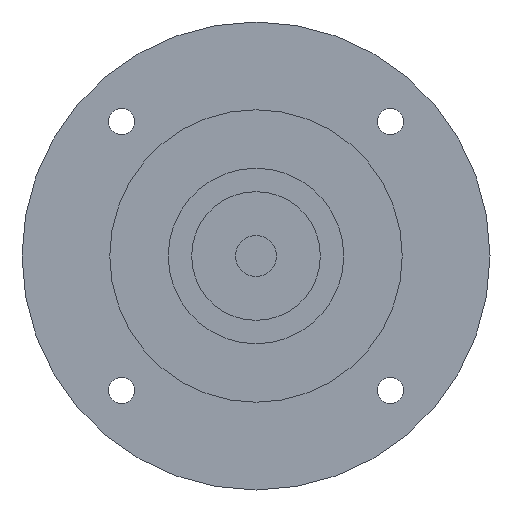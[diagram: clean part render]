
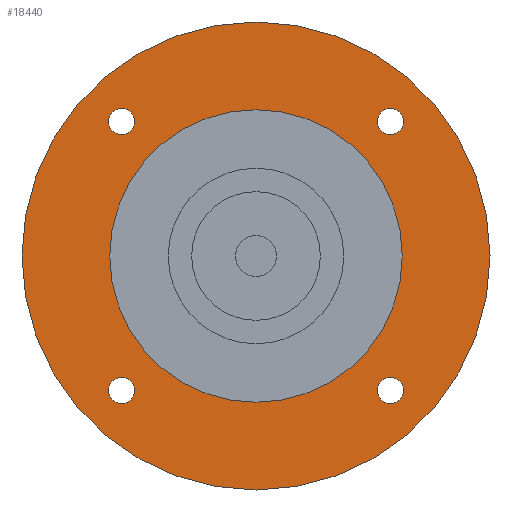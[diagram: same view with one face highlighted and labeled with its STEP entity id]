
A CAD part, left-side view. The second image highlights one B-rep face of the part: STEP entity #18440.
In plain terms, the highlighted planar face has unit normal (-1, 0, 0) as drawn and (0, 0, -1) by its records, which use the part's own axes.
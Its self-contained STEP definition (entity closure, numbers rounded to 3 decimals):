
#11090=CARTESIAN_POINT('',(-20.731,-22.981,-58.));
#11100=VERTEX_POINT('',#11090);
#11280=CARTESIAN_POINT('',(-25.231,-22.981,-58.));
#11290=VERTEX_POINT('',#11280);
#11320=CARTESIAN_POINT('',(-22.981,-22.981,-58.));
#11330=DIRECTION('',(0.,0.,-1.));
#11340=DIRECTION('',(0.,-1.,0.));
#11350=AXIS2_PLACEMENT_3D('',#11320,#11330,#11340);
#11360=CIRCLE('',#11350,2.25);
#11370=CARTESIAN_POINT('',(-22.981,-25.231,-58.));
#11380=VERTEX_POINT('',#11370);
#11390=EDGE_CURVE('',#11380,#11290,#11360,.T.);
#11410=EDGE_CURVE('',#11100,#11380,#11360,.T.);
#12890=CARTESIAN_POINT('',(40.,0.,-58.));
#12900=VERTEX_POINT('',#12890);
#12950=CARTESIAN_POINT('',(0.,0.,
-58.));
#12960=DIRECTION('',(0.,0.,1.));
#12970=DIRECTION('',(1.,0.,0.));
#12980=AXIS2_PLACEMENT_3D('',#12950,#12960,#12970);
#12990=CIRCLE('',#12980,40.);
#13000=CARTESIAN_POINT('',(-40.,0.,-58.));
#13010=VERTEX_POINT('',#13000);
#13020=EDGE_CURVE('',#13010,#12900,#12990,.T.);
#17420=CARTESIAN_POINT('',(20.731,22.981,-58.));
#17430=VERTEX_POINT('',#17420);
#17510=CARTESIAN_POINT('',(25.231,22.981,-58.));
#17520=VERTEX_POINT('',#17510);
#17550=CARTESIAN_POINT('',(22.981,22.981,-58.));
#17560=DIRECTION('',(0.,0.,-1.));
#17570=DIRECTION('',(0.,1.,0.));
#17580=AXIS2_PLACEMENT_3D('',#17550,#17560,#17570);
#17590=CIRCLE('',#17580,2.25);
#17600=CARTESIAN_POINT('',(22.981,25.231,-58.));
#17610=VERTEX_POINT('',#17600);
#17620=EDGE_CURVE('',#17610,#17520,#17590,.T.);
#17640=EDGE_CURVE('',#17430,#17610,#17590,.T.);
#17690=CARTESIAN_POINT('',(0.,0.,
-58.));
#17700=DIRECTION('',(0.,0.,1.));
#17710=DIRECTION('',(-1.,0.,0.));
#17720=AXIS2_PLACEMENT_3D('',#17690,#17700,#17710);
#17730=PLANE('',#17720);
#17740=CARTESIAN_POINT('',(0.,0.,
-58.));
#17750=DIRECTION('',(0.,0.,-1.));
#17760=DIRECTION('',(0.,-1.,0.));
#17770=AXIS2_PLACEMENT_3D('',#17740,#17750,#17760);
#17780=CIRCLE('',#17770,25.);
#17790=CARTESIAN_POINT('',(0.,-25.,-58.));
#17800=VERTEX_POINT('',#17790);
#17810=CARTESIAN_POINT('',(0.,25.,-58.));
#17820=VERTEX_POINT('',#17810);
#17830=EDGE_CURVE('',#17800,#17820,#17780,.T.);
#17840=ORIENTED_EDGE('',*,*,#17830,.F.);
#17850=EDGE_CURVE('',#17820,#17800,#17780,.T.);
#17860=ORIENTED_EDGE('',*,*,#17850,.F.);
#17870=EDGE_LOOP('',(#17860,#17840));
#17880=FACE_BOUND('',#17870,.T.);
#17890=CARTESIAN_POINT('',(22.981,-22.981,-58.));
#17900=DIRECTION('',(0.,0.,-1.));
#17910=DIRECTION('',(1.,0.,0.));
#17920=AXIS2_PLACEMENT_3D('',#17890,#17900,#17910);
#17930=CIRCLE('',#17920,2.25);
#17940=CARTESIAN_POINT('',(25.231,-22.981,-58.));
#17950=VERTEX_POINT('',#17940);
#17960=CARTESIAN_POINT('',(22.981,-25.231,-58.));
#17970=VERTEX_POINT('',#17960);
#17980=EDGE_CURVE('',#17950,#17970,#17930,.T.);
#17990=ORIENTED_EDGE('',*,*,#17980,.F.);
#18000=CARTESIAN_POINT('',(22.981,-20.731,-58.));
#18010=VERTEX_POINT('',#18000);
#18020=EDGE_CURVE('',#17970,#18010,#17930,.T.);
#18030=ORIENTED_EDGE('',*,*,#18020,.F.);
#18040=EDGE_CURVE('',#18010,#17950,#17930,.T.);
#18050=ORIENTED_EDGE('',*,*,#18040,.F.);
#18060=EDGE_LOOP('',(#18050,#18030,#17990));
#18070=FACE_BOUND('',#18060,.T.);
#18080=ORIENTED_EDGE('',*,*,#17620,.F.);
#18090=EDGE_CURVE('',#17520,#17430,#17590,.T.);
#18100=ORIENTED_EDGE('',*,*,#18090,.F.);
#18110=ORIENTED_EDGE('',*,*,#17640,.F.);
#18120=EDGE_LOOP('',(#18110,#18100,#18080));
#18130=FACE_BOUND('',#18120,.T.);
#18140=CARTESIAN_POINT('',(-22.981,22.981,-58.));
#18150=DIRECTION('',(0.,0.,-1.));
#18160=DIRECTION('',(-1.,0.,0.));
#18170=AXIS2_PLACEMENT_3D('',#18140,#18150,#18160);
#18180=CIRCLE('',#18170,2.25);
#18190=CARTESIAN_POINT('',(-25.231,22.981,-58.));
#18200=VERTEX_POINT('',#18190);
#18210=CARTESIAN_POINT('',(-22.981,25.231,-58.));
#18220=VERTEX_POINT('',#18210);
#18230=EDGE_CURVE('',#18200,#18220,#18180,.T.);
#18240=ORIENTED_EDGE('',*,*,#18230,.F.);
#18250=CARTESIAN_POINT('',(-22.981,20.731,-58.));
#18260=VERTEX_POINT('',#18250);
#18270=EDGE_CURVE('',#18220,#18260,#18180,.T.);
#18280=ORIENTED_EDGE('',*,*,#18270,.F.);
#18290=EDGE_CURVE('',#18260,#18200,#18180,.T.);
#18300=ORIENTED_EDGE('',*,*,#18290,.F.);
#18310=EDGE_LOOP('',(#18300,#18280,#18240));
#18320=FACE_BOUND('',#18310,.T.);
#18330=ORIENTED_EDGE('',*,*,#11390,.F.);
#18340=EDGE_CURVE('',#11290,#11100,#11360,.T.);
#18350=ORIENTED_EDGE('',*,*,#18340,.F.);
#18360=ORIENTED_EDGE('',*,*,#11410,.F.);
#18370=EDGE_LOOP('',(#18360,#18350,#18330));
#18380=FACE_BOUND('',#18370,.T.);
#18390=EDGE_CURVE('',#12900,#13010,#12990,.T.);
#18400=ORIENTED_EDGE('',*,*,#18390,.F.);
#18410=ORIENTED_EDGE('',*,*,#13020,.F.);
#18420=EDGE_LOOP('',(#18410,#18400));
#18430=FACE_OUTER_BOUND('',#18420,.T.);
#18440=ADVANCED_FACE('',(#17880,#18070,#18130,#18320,#18380,#18430),
#17730,.F.);
